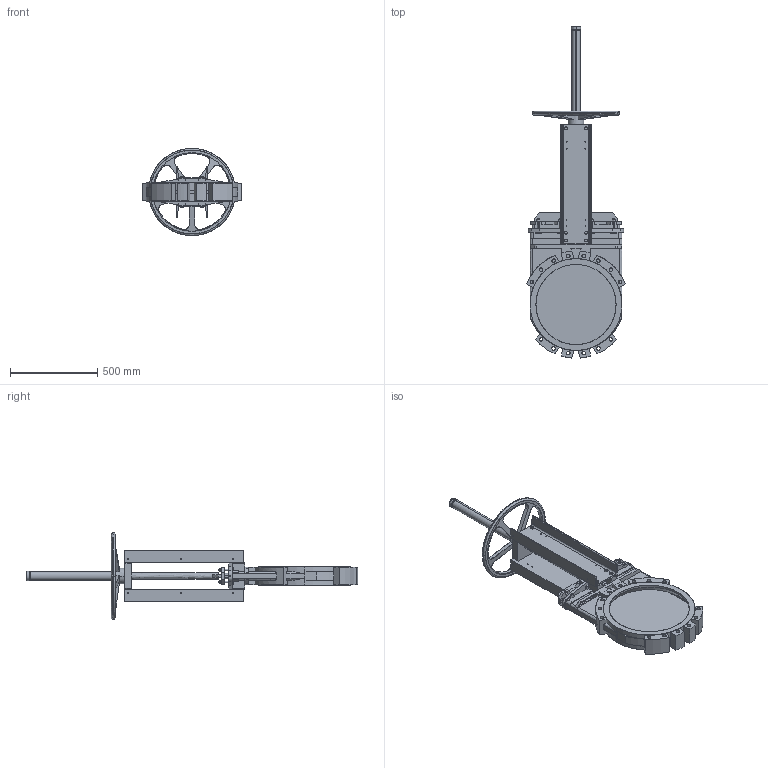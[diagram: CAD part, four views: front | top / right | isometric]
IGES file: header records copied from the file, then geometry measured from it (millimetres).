
Start section: SolidWorks IGES file using analytic representation for surfaces
Global section: file name: D:\part\3D Projects\VG-HANDWHEEL(DN50-600)\VG DN450\VG DN450.IGS; native system: SolidWorks 2009; preprocessor: SolidWorks 2009; author: zhixin.zheng; date: 100129.085842; units: millimetre
Bounding box: 567 x 1904.55 x 500 mm (x, y, z)
Surface area: 2963653.8 mm2 (no closed solid volume)
Topology: 0 solids, 0 shells, 1100 faces, 11890 edges, 11890 vertices
Faces by surface type: bspline 659, revolution 441
